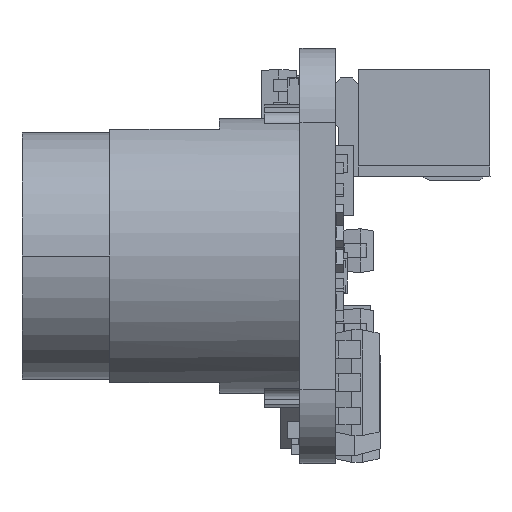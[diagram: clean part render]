
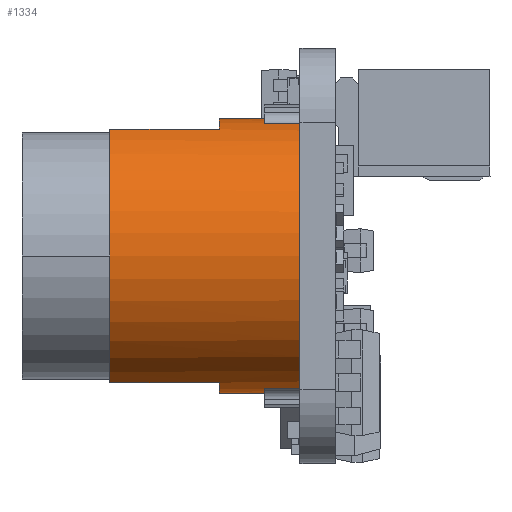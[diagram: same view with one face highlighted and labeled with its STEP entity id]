
A CAD part, front view. The second image highlights one B-rep face of the part: STEP entity #1334.
In plain terms, the highlighted cylindrical face has radius 3.9 mm (diameter 7.8 mm), a partial arc.
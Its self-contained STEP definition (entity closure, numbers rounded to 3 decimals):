
#239=TRIMMED_CURVE($,#436,(#27832),(#27833),.T.,.CARTESIAN.);
#240=TRIMMED_CURVE($,#437,(#27837),(#27838),.T.,.CARTESIAN.);
#241=TRIMMED_CURVE($,#438,(#27842),(#27843),.T.,.CARTESIAN.);
#242=TRIMMED_CURVE($,#439,(#27847),(#27848),.T.,.CARTESIAN.);
#243=TRIMMED_CURVE($,#440,(#27852),(#27853),.T.,.CARTESIAN.);
#244=TRIMMED_CURVE($,#441,(#27857),(#27858),.T.,.CARTESIAN.);
#436=CIRCLE('',#16658,3.9);
#437=CIRCLE('',#16659,3.9);
#438=CIRCLE('',#16660,3.9);
#439=CIRCLE('',#16661,3.9);
#440=CIRCLE('',#16662,3.9);
#441=CIRCLE('',#16663,3.9);
#522=CYLINDRICAL_SURFACE('',#16631,3.9);
#1334=ADVANCED_FACE('',(#2033),#522,.T.);
#2033=FACE_OUTER_BOUND('',#2781,.T.);
#2781=EDGE_LOOP('',(#7087,#7088,#7089,#7090,#7091,#7092,#7093,#7094,#7095,
#7096,#7097,#7098));
#7087=ORIENTED_EDGE('',*,*,#10067,.T.);
#7088=ORIENTED_EDGE('',*,*,#10068,.T.);
#7089=ORIENTED_EDGE('',*,*,#10069,.T.);
#7090=ORIENTED_EDGE('',*,*,#10070,.T.);
#7091=ORIENTED_EDGE('',*,*,#10071,.T.);
#7092=ORIENTED_EDGE('',*,*,#10072,.T.);
#7093=ORIENTED_EDGE('',*,*,#10073,.T.);
#7094=ORIENTED_EDGE('',*,*,#10074,.T.);
#7095=ORIENTED_EDGE('',*,*,#10075,.T.);
#7096=ORIENTED_EDGE('',*,*,#10076,.T.);
#7097=ORIENTED_EDGE('',*,*,#10077,.T.);
#7098=ORIENTED_EDGE('',*,*,#10078,.T.);
#10067=EDGE_CURVE('',#15054,#15055,#239,.T.);
#10068=EDGE_CURVE('',#15055,#15056,#12822,.T.);
#10069=EDGE_CURVE('',#15056,#15057,#240,.T.);
#10070=EDGE_CURVE('',#15057,#15058,#12823,.T.);
#10071=EDGE_CURVE('',#15058,#15059,#241,.T.);
#10072=EDGE_CURVE('',#15059,#15060,#12824,.T.);
#10073=EDGE_CURVE('',#15060,#15061,#242,.T.);
#10074=EDGE_CURVE('',#15061,#15062,#12825,.T.);
#10075=EDGE_CURVE('',#15062,#15063,#243,.T.);
#10076=EDGE_CURVE('',#15063,#15064,#12826,.T.);
#10077=EDGE_CURVE('',#15064,#15065,#244,.T.);
#10078=EDGE_CURVE('',#15065,#15054,#12827,.T.);
#12822=B_SPLINE_CURVE_WITH_KNOTS('',1,(#27834,#27835),.UNSPECIFIED.,.F.,
 .F.,(2,2),(0.,1.3),.UNSPECIFIED.);
#12823=B_SPLINE_CURVE_WITH_KNOTS('',1,(#27839,#27840),.UNSPECIFIED.,.F.,
 .F.,(2,2),(0.,3.1),.UNSPECIFIED.);
#12824=B_SPLINE_CURVE_WITH_KNOTS('',1,(#27844,#27845),.UNSPECIFIED.,.F.,
 .F.,(2,2),(0.,3.1),.UNSPECIFIED.);
#12825=B_SPLINE_CURVE_WITH_KNOTS('',1,(#27849,#27850),.UNSPECIFIED.,.F.,
 .F.,(2,2),(0.,1.3),.UNSPECIFIED.);
#12826=B_SPLINE_CURVE_WITH_KNOTS('',1,(#27854,#27855),.UNSPECIFIED.,.F.,
 .F.,(2,2),(0.,1.),.UNSPECIFIED.);
#12827=B_SPLINE_CURVE_WITH_KNOTS('',1,(#27859,#27860),.UNSPECIFIED.,.F.,
 .F.,(2,2),(0.,1.),.UNSPECIFIED.);
#15054=VERTEX_POINT('',#27775);
#15055=VERTEX_POINT('',#27776);
#15056=VERTEX_POINT('',#27777);
#15057=VERTEX_POINT('',#27778);
#15058=VERTEX_POINT('',#27779);
#15059=VERTEX_POINT('',#27780);
#15060=VERTEX_POINT('',#27781);
#15061=VERTEX_POINT('',#27782);
#15062=VERTEX_POINT('',#27783);
#15063=VERTEX_POINT('',#27784);
#15064=VERTEX_POINT('',#27785);
#15065=VERTEX_POINT('',#27786);
#16631=AXIS2_PLACEMENT_3D('',#27710,#17665,$);
#16658=AXIS2_PLACEMENT_3D($,#27831,#17694,#17695);
#16659=AXIS2_PLACEMENT_3D($,#27836,#17696,#17697);
#16660=AXIS2_PLACEMENT_3D($,#27841,#17698,#17699);
#16661=AXIS2_PLACEMENT_3D($,#27846,#17700,#17701);
#16662=AXIS2_PLACEMENT_3D($,#27851,#17702,#17703);
#16663=AXIS2_PLACEMENT_3D($,#27856,#17704,#17705);
#17665=DIRECTION('',(-1.,0.,0.));
#17694=DIRECTION('',(-1.,0.,0.));
#17695=DIRECTION('',(0.,-0.25,0.968));
#17696=DIRECTION('',(1.,0.,0.));
#17697=DIRECTION('',(0.,0.,1.));
#17698=DIRECTION('',(1.,0.,0.));
#17699=DIRECTION('',(0.,-0.385,0.923));
#17700=DIRECTION('',(1.,0.,0.));
#17701=DIRECTION('',(0.,-0.385,-0.923));
#17702=DIRECTION('',(-1.,0.,0.));
#17703=DIRECTION('',(0.,0.,-1.));
#17704=DIRECTION('',(-1.,0.,0.));
#17705=DIRECTION('',(0.,-0.25,-0.968));
#27710=CARTESIAN_POINT('',(7.5,17.1,22.));
#27775=CARTESIAN_POINT('',(9.2,16.125,25.776));
#27776=CARTESIAN_POINT('',(9.2,17.1,25.9));
#27777=CARTESIAN_POINT('',(7.9,17.1,25.9));
#27778=CARTESIAN_POINT('',(7.9,15.6,25.6));
#27779=CARTESIAN_POINT('',(4.8,15.6,25.6));
#27780=CARTESIAN_POINT('',(4.8,15.6,18.4));
#27781=CARTESIAN_POINT('',(7.9,15.6,18.4));
#27782=CARTESIAN_POINT('',(7.9,17.1,18.1));
#27783=CARTESIAN_POINT('',(9.2,17.1,18.1));
#27784=CARTESIAN_POINT('',(9.2,16.125,18.224));
#27785=CARTESIAN_POINT('',(10.2,16.125,18.224));
#27786=CARTESIAN_POINT('',(10.2,16.125,25.776));
#27831=CARTESIAN_POINT('',(9.2,17.1,22.));
#27832=CARTESIAN_POINT('',(9.2,16.125,25.776));
#27833=CARTESIAN_POINT('',(9.2,17.1,25.9));
#27834=CARTESIAN_POINT('',(9.2,17.1,25.9));
#27835=CARTESIAN_POINT('',(7.9,17.1,25.9));
#27836=CARTESIAN_POINT('',(7.9,17.1,22.));
#27837=CARTESIAN_POINT('',(7.9,17.1,25.9));
#27838=CARTESIAN_POINT('',(7.9,15.6,25.6));
#27839=CARTESIAN_POINT('',(7.9,15.6,25.6));
#27840=CARTESIAN_POINT('',(4.8,15.6,25.6));
#27841=CARTESIAN_POINT('',(4.8,17.1,22.));
#27842=CARTESIAN_POINT('',(4.8,15.6,25.6));
#27843=CARTESIAN_POINT('',(4.8,15.6,18.4));
#27844=CARTESIAN_POINT('',(4.8,15.6,18.4));
#27845=CARTESIAN_POINT('',(7.9,15.6,18.4));
#27846=CARTESIAN_POINT('',(7.9,17.1,22.));
#27847=CARTESIAN_POINT('',(7.9,15.6,18.4));
#27848=CARTESIAN_POINT('',(7.9,17.1,18.1));
#27849=CARTESIAN_POINT('',(7.9,17.1,18.1));
#27850=CARTESIAN_POINT('',(9.2,17.1,18.1));
#27851=CARTESIAN_POINT('',(9.2,17.1,22.));
#27852=CARTESIAN_POINT('',(9.2,17.1,18.1));
#27853=CARTESIAN_POINT('',(9.2,16.125,18.224));
#27854=CARTESIAN_POINT('',(9.2,16.125,18.224));
#27855=CARTESIAN_POINT('',(10.2,16.125,18.224));
#27856=CARTESIAN_POINT('',(10.2,17.1,22.));
#27857=CARTESIAN_POINT('',(10.2,16.125,18.224));
#27858=CARTESIAN_POINT('',(10.2,16.125,25.776));
#27859=CARTESIAN_POINT('',(10.2,16.125,25.776));
#27860=CARTESIAN_POINT('',(9.2,16.125,25.776));
